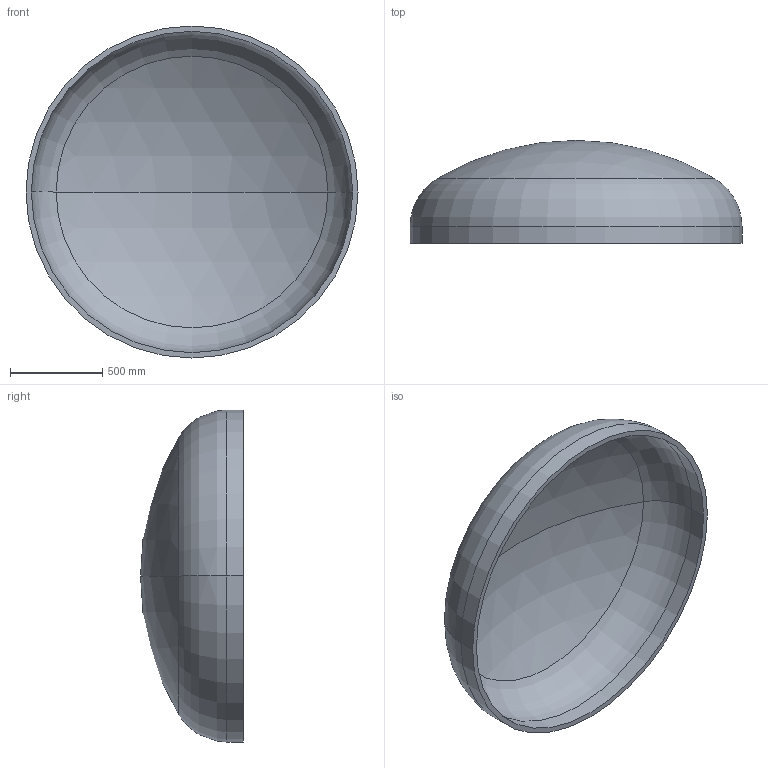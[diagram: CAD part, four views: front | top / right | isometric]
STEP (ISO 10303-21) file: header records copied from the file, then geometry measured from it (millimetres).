
FILE_DESCRIPTION (( 'STEP AP203' ), '1' );
FILE_NAME ('DIN 28013 Korbbogenform_-_Boden DIN 28013 - 1800 x 90 - I - s=29.step', '2016-07-01T12:25:09', ( '' ), ( '' ), 'SwSTEP 2.0', 'SolidWorks 2013', '' );
FILE_SCHEMA (( 'CONFIG_CONTROL_DESIGN' ));
Length unit declared in the file: millimetre
Products named in the file (1): DIN 28013 Korbbogenform_-_Boden DIN 28013 - 1800 x 90 - I - s=29
Bounding box: 1800 x 558 x 1800 mm (x, y, z)
Volume: 114420600.1 mm3; surface area: 8054183.6 mm2
Topology: 1 solids, 1 shells, 13 faces, 24 edges, 14 vertices
Faces by surface type: torus 4, cylinder 4, sphere 4, plane 1
Entity records: 407 total; most frequent: DIRECTION 72, CARTESIAN_POINT 52, ORIENTED_EDGE 48, AXIS2_PLACEMENT_3D 34, EDGE_CURVE 24, CIRCLE 20, EDGE_LOOP 14, VERTEX_POINT 14
